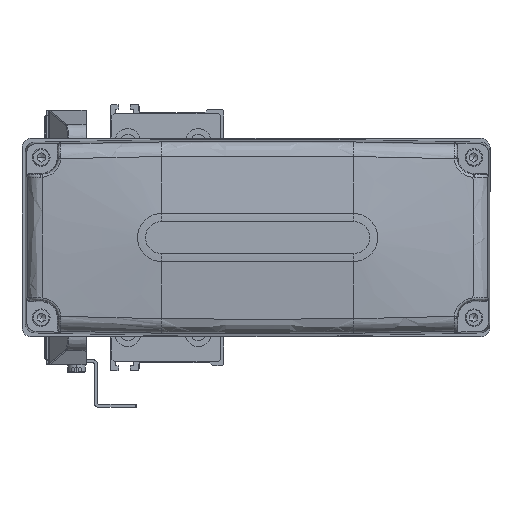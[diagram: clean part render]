
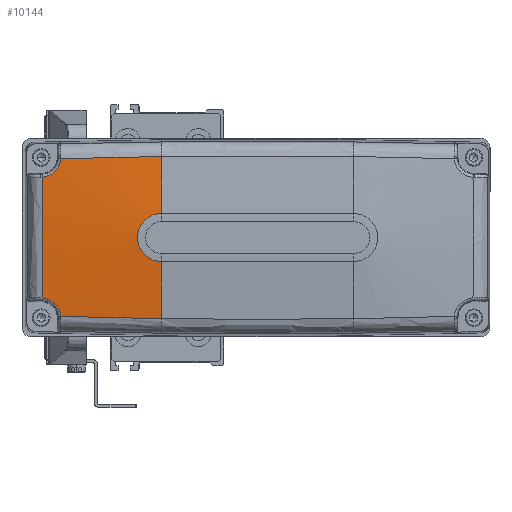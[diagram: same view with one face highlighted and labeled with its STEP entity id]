
A CAD part, left-side view. The second image highlights one B-rep face of the part: STEP entity #10144.
In plain terms, the highlighted conical face has half-angle 85 degrees and reference radius 41.25 mm.
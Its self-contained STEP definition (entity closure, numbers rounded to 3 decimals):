
#86 = VECTOR ( 'NONE', #30795, 1000. ) ;
#132 = CARTESIAN_POINT ( 'NONE',  ( -63.558, 50.861, -24.551 ) ) ;
#323 = VERTEX_POINT ( 'NONE', #22208 ) ;
#713 = CARTESIAN_POINT ( 'NONE',  ( -60.481, 19.5, 75. ) ) ;
#748 = CARTESIAN_POINT ( 'NONE',  ( -63.647, 51.919, 21.356 ) ) ;
#906 = CARTESIAN_POINT ( 'NONE',  ( -63.558, 50.861, 24.551 ) ) ;
#936 = CARTESIAN_POINT ( 'NONE',  ( -63.615, 56.714, -13.107 ) ) ;
#1016 = CARTESIAN_POINT ( 'NONE',  ( -63.707, 56.723, 9.716 ) ) ;
#1418 = CIRCLE ( 'NONE', #22824, 7.5 ) ;
#1817 = CARTESIAN_POINT ( 'NONE',  ( -63.558, 50.861, -24.551 ) ) ;
#2586 = B_SPLINE_CURVE_WITH_KNOTS ( 'NONE', 3,
 ( #13294, #28518, #10786, #936, #16469, #26640 ),
 .UNSPECIFIED., .F., .F.,
 ( 4, 2, 4 ),
 ( 0., 0.033, 1. ),
 .UNSPECIFIED. ) ;
#2634 = CARTESIAN_POINT ( 'NONE',  ( -63.894, 45.868, -24.695 ) ) ;
#3240 = CARTESIAN_POINT ( 'NONE',  ( -63.853, 46.375, 24.679 ) ) ;
#3327 = EDGE_CURVE ( 'NONE', #18100, #323, #3504, .T. ) ;
#3504 = B_SPLINE_CURVE_WITH_KNOTS ( 'NONE', 3,
 ( #32201, #19536, #4282, #11965, #22206, #9483, #25692, #25535, #30039, #17875 ),
 .UNSPECIFIED., .F., .F.,
 ( 4, 2, 2, 2, 4 ),
 ( 0., 0.347, 0.637, 0.861, 1. ),
 .UNSPECIFIED. ) ;
#4282 = CARTESIAN_POINT ( 'NONE',  ( -63.635, 51.288, -22.516 ) ) ;
#5132 = CARTESIAN_POINT ( 'NONE',  ( -64.837, 24.962, -25.202 ) ) ;
#5594 = CARTESIAN_POINT ( 'NONE',  ( -63.618, 51.111, 23.094 ) ) ;
#5600 = CARTESIAN_POINT ( 'NONE',  ( -64.447, 35.965, 24.956 ) ) ;
#6022 = CARTESIAN_POINT ( 'NONE',  ( -63.782, 56.732, -1.502 ) ) ;
#7017 = VERTEX_POINT ( 'NONE', #26523 ) ;
#7020 = CARTESIAN_POINT ( 'NONE',  ( -64.75, 27.754, 25.141 ) ) ;
#7606 = DIRECTION ( 'NONE',  ( -0.087, 0., -0.996 ) ) ;
#7628 = CARTESIAN_POINT ( 'NONE',  ( -63.558, 50.861, 24.551 ) ) ;
#8404 = EDGE_LOOP ( 'NONE', ( #12850, #20380, #15542, #15280, #29480, #30773, #9188, #21017, #23515 ) ) ;
#8427 = CARTESIAN_POINT ( 'NONE',  ( -63.631, 52.727, 20.432 ) ) ;
#8584 = CARTESIAN_POINT ( 'NONE',  ( -63.709, 48.619, 24.616 ) ) ;
#8862 = EDGE_CURVE ( 'NONE', #19101, #10063, #28108, .T. ) ;
#9188 = ORIENTED_EDGE ( 'NONE', *, *, #14852, .F. ) ;
#9483 = CARTESIAN_POINT ( 'NONE',  ( -63.56, 54.222, -19.468 ) ) ;
#9680 = CARTESIAN_POINT ( 'NONE',  ( -64.836, 23.628, 25.218 ) ) ;
#9698 = CARTESIAN_POINT ( 'NONE',  ( -63.484, 56.703, 16.482 ) ) ;
#9813 = FACE_OUTER_BOUND ( 'NONE', #8404, .T. ) ;
#10061 = DIRECTION ( 'NONE',  ( 1., 0., 0. ) ) ;
#10063 = VERTEX_POINT ( 'NONE', #20040 ) ;
#10144 = ADVANCED_FACE ( 'NONE', ( #9813 ), #15134, .T. ) ;
#10294 = AXIS2_PLACEMENT_3D ( 'NONE', #17168, #27348, #14990 ) ;
#10762 = CARTESIAN_POINT ( 'NONE',  ( -63.558, 50.861, 24.551 ) ) ;
#10786 = CARTESIAN_POINT ( 'NONE',  ( -63.409, 56.697, -18.476 ) ) ;
#11003 = B_SPLINE_CURVE_WITH_KNOTS ( 'NONE', 3,
 ( #10762, #8584, #3240, #13757, #21482, #5600, #7020, #9680, #30085 ),
 .UNSPECIFIED., .F., .F.,
 ( 4, 3, 2, 4 ),
 ( 0., 0.216, 0.608, 1. ),
 .UNSPECIFIED. ) ;
#11025 = CARTESIAN_POINT ( 'NONE',  ( -63.779, 56.732, -2.289 ) ) ;
#11678 = CARTESIAN_POINT ( 'NONE',  ( -63.441, 56.699, 17.654 ) ) ;
#11965 = CARTESIAN_POINT ( 'NONE',  ( -63.637, 52.323, -20.926 ) ) ;
#12736 = EDGE_CURVE ( 'NONE', #7017, #31868, #27190, .T. ) ;
#12765 = LINE ( 'NONE', #713, #23439 ) ;
#12850 = ORIENTED_EDGE ( 'NONE', *, *, #32834, .F. ) ;
#13200 = EDGE_CURVE ( 'NONE', #10063, #17839, #1418, .T. ) ;
#13294 = CARTESIAN_POINT ( 'NONE',  ( -63.395, 56.695, -18.826 ) ) ;
#13425 = CARTESIAN_POINT ( 'NONE',  ( -63.474, 55.644, 18.89 ) ) ;
#13757 = CARTESIAN_POINT ( 'NONE',  ( -63.988, 44.127, 24.74 ) ) ;
#13785 = B_SPLINE_CURVE_WITH_KNOTS ( 'NONE', 3,
 ( #24082, #11025, #31429, #6022, #23919, #1016, #9698, #11678, #19242 ),
 .UNSPECIFIED., .F., .F.,
 ( 4, 3, 2, 4 ),
 ( 0., 0.055, 0.836, 1. ),
 .UNSPECIFIED. ) ;
#14010 = CARTESIAN_POINT ( 'NONE',  ( -66.386, 19.5, 7.5 ) ) ;
#14852 = EDGE_CURVE ( 'NONE', #31868, #17191, #11003, .T. ) ;
#14990 = DIRECTION ( 'NONE',  ( 0., 0., -1. ) ) ;
#15134 = CONICAL_SURFACE ( 'NONE', #10294, 41.25, 1.484 ) ;
#15162 = CARTESIAN_POINT ( 'NONE',  ( -64.832, 19.5, -25.269 ) ) ;
#15280 = ORIENTED_EDGE ( 'NONE', *, *, #8862, .T. ) ;
#15357 = CARTESIAN_POINT ( 'NONE',  ( -64.683, 30.417, -25.087 ) ) ;
#15542 = ORIENTED_EDGE ( 'NONE', *, *, #32727, .F. ) ;
#15796 = CARTESIAN_POINT ( 'NONE',  ( -63.541, 54.609, 19.227 ) ) ;
#16469 = CARTESIAN_POINT ( 'NONE',  ( -63.744, 56.728, -7.897 ) ) ;
#17168 = CARTESIAN_POINT ( 'NONE',  ( -63.433, 19.5, 0. ) ) ;
#17191 = VERTEX_POINT ( 'NONE', #17768 ) ;
#17768 = CARTESIAN_POINT ( 'NONE',  ( -64.832, 19.5, 25.269 ) ) ;
#17839 = VERTEX_POINT ( 'NONE', #14010 ) ;
#17875 = CARTESIAN_POINT ( 'NONE',  ( -63.395, 56.695, -18.826 ) ) ;
#18100 = VERTEX_POINT ( 'NONE', #1817 ) ;
#19101 = VERTEX_POINT ( 'NONE', #15162 ) ;
#19242 = CARTESIAN_POINT ( 'NONE',  ( -63.395, 56.695, 18.826 ) ) ;
#19536 = CARTESIAN_POINT ( 'NONE',  ( -63.607, 50.944, -23.523 ) ) ;
#20040 = CARTESIAN_POINT ( 'NONE',  ( -66.386, 19.5, -7.5 ) ) ;
#20380 = ORIENTED_EDGE ( 'NONE', *, *, #3327, .F. ) ;
#20810 = EDGE_CURVE ( 'NONE', #17191, #17839, #12765, .T. ) ;
#21017 = ORIENTED_EDGE ( 'NONE', *, *, #12736, .F. ) ;
#21482 = CARTESIAN_POINT ( 'NONE',  ( -64.233, 40.052, 24.85 ) ) ;
#22206 = CARTESIAN_POINT ( 'NONE',  ( -63.62, 52.945, -20.302 ) ) ;
#22208 = CARTESIAN_POINT ( 'NONE',  ( -63.395, 56.695, -18.826 ) ) ;
#22824 = AXIS2_PLACEMENT_3D ( 'NONE', #22964, #10061, #32795 ) ;
#22964 = CARTESIAN_POINT ( 'NONE',  ( -66.386, 19.5, 0. ) ) ;
#23439 = VECTOR ( 'NONE', #7606, 1000. ) ;
#23515 = ORIENTED_EDGE ( 'NONE', *, *, #27661, .F. ) ;
#23660 = CARTESIAN_POINT ( 'NONE',  ( -63.395, 56.695, 18.826 ) ) ;
#23919 = CARTESIAN_POINT ( 'NONE',  ( -63.802, 56.734, 4.107 ) ) ;
#23968 = CARTESIAN_POINT ( 'NONE',  ( -63.593, 50.92, 23.817 ) ) ;
#24082 = CARTESIAN_POINT ( 'NONE',  ( -63.776, 56.731, -2.682 ) ) ;
#25535 = CARTESIAN_POINT ( 'NONE',  ( -63.455, 55.873, -18.917 ) ) ;
#25544 = CARTESIAN_POINT ( 'NONE',  ( -64.201, 40.864, -24.831 ) ) ;
#25692 = CARTESIAN_POINT ( 'NONE',  ( -63.524, 54.834, -19.194 ) ) ;
#25774 = CARTESIAN_POINT ( 'NONE',  ( -60.481, 19.5, -75. ) ) ;
#26125 = B_SPLINE_CURVE_WITH_KNOTS ( 'NONE', 3,
 ( #28044, #5132, #15357, #25544, #2634, #132 ),
 .UNSPECIFIED., .F., .F.,
 ( 4, 2, 4 ),
 ( 0., 0.519, 1. ),
 .UNSPECIFIED. ) ;
#26523 = CARTESIAN_POINT ( 'NONE',  ( -63.395, 56.695, 18.826 ) ) ;
#26640 = CARTESIAN_POINT ( 'NONE',  ( -63.776, 56.731, -2.682 ) ) ;
#27190 = B_SPLINE_CURVE_WITH_KNOTS ( 'NONE', 3,
 ( #23660, #13425, #15796, #8427, #748, #5594, #23968, #906 ),
 .UNSPECIFIED., .F., .F.,
 ( 4, 2, 2, 4 ),
 ( 0., 0.356, 0.752, 1. ),
 .UNSPECIFIED. ) ;
#27348 = DIRECTION ( 'NONE',  ( 1., 0., 0. ) ) ;
#27661 = EDGE_CURVE ( 'NONE', #32110, #7017, #13785, .T. ) ;
#28044 = CARTESIAN_POINT ( 'NONE',  ( -64.832, 19.5, -25.269 ) ) ;
#28108 = LINE ( 'NONE', #25774, #86 ) ;
#28518 = CARTESIAN_POINT ( 'NONE',  ( -63.402, 56.696, -18.651 ) ) ;
#29480 = ORIENTED_EDGE ( 'NONE', *, *, #13200, .T. ) ;
#30039 = CARTESIAN_POINT ( 'NONE',  ( -63.426, 56.283, -18.851 ) ) ;
#30085 = CARTESIAN_POINT ( 'NONE',  ( -64.832, 19.5, 25.269 ) ) ;
#30773 = ORIENTED_EDGE ( 'NONE', *, *, #20810, .F. ) ;
#30795 = DIRECTION ( 'NONE',  ( -0.087, 0., 0.996 ) ) ;
#31429 = CARTESIAN_POINT ( 'NONE',  ( -63.781, 56.732, -1.895 ) ) ;
#31868 = VERTEX_POINT ( 'NONE', #7628 ) ;
#31910 = CARTESIAN_POINT ( 'NONE',  ( -63.776, 56.731, -2.682 ) ) ;
#32110 = VERTEX_POINT ( 'NONE', #31910 ) ;
#32201 = CARTESIAN_POINT ( 'NONE',  ( -63.558, 50.861, -24.551 ) ) ;
#32727 = EDGE_CURVE ( 'NONE', #19101, #18100, #26125, .T. ) ;
#32795 = DIRECTION ( 'NONE',  ( 0., 0., -1. ) ) ;
#32834 = EDGE_CURVE ( 'NONE', #323, #32110, #2586, .T. ) ;
